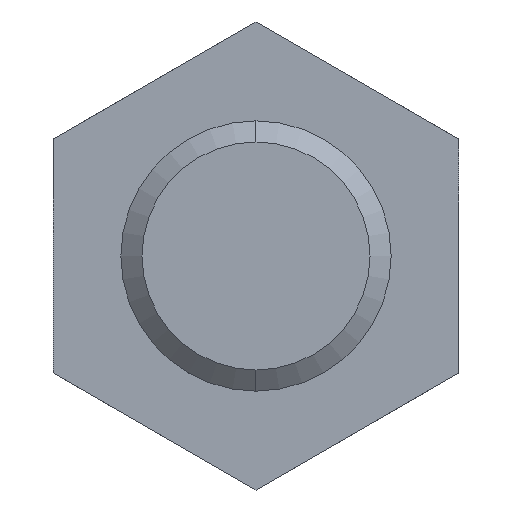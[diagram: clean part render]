
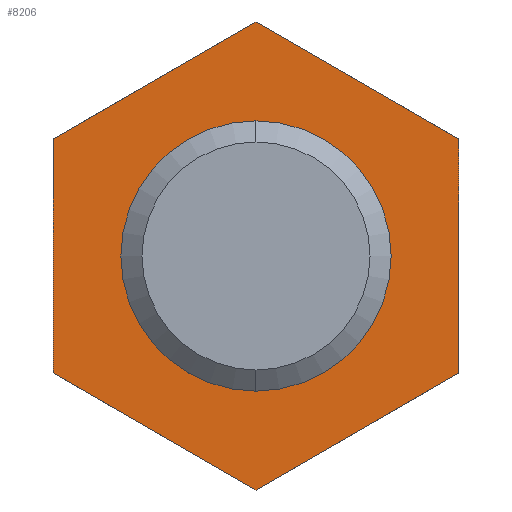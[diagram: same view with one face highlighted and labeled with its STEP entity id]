
A CAD part, front view. The second image highlights one B-rep face of the part: STEP entity #8206.
In plain terms, the highlighted planar face has unit normal (0, -1, 0).
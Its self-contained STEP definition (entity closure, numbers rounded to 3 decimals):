
#358 = CARTESIAN_POINT ( 'NONE',  ( -10., 60., 0. ) ) ;
#359 = DIRECTION ( 'NONE',  ( -1., 0., 0. ) ) ;
#360 = DIRECTION ( 'NONE',  ( 0., 1., 0. ) ) ;
#361 = CARTESIAN_POINT ( 'NONE',  ( 0., 60., 0. ) ) ;
#362 = AXIS2_PLACEMENT_3D ( 'NONE', #361, #360, #359 ) ;
#368 = CIRCLE ( 'NONE', #362, 10. ) ;
#509 = CARTESIAN_POINT ( 'NONE',  ( 10., 60., 0. ) ) ;
#980 = CARTESIAN_POINT ( 'NONE',  ( -15., 60., 8.66 ) ) ;
#988 = CARTESIAN_POINT ( 'NONE',  ( 15., 60., 8.66 ) ) ;
#989 = CARTESIAN_POINT ( 'NONE',  ( 0., 60., 17.321 ) ) ;
#1004 = DIRECTION ( 'NONE',  ( 0.866, 0., -0.5 ) ) ;
#1005 = VECTOR ( 'NONE', #1004, 1000. ) ;
#1006 = CARTESIAN_POINT ( 'NONE',  ( -15., 60., -8.66 ) ) ;
#1007 = LINE ( 'NONE', #1006, #1005 ) ;
#1036 = DIRECTION ( 'NONE',  ( 0., 0., 1. ) ) ;
#1037 = VECTOR ( 'NONE', #1036, 1000. ) ;
#1038 = CARTESIAN_POINT ( 'NONE',  ( 15., 60., -8.66 ) ) ;
#1039 = LINE ( 'NONE', #1038, #1037 ) ;
#1040 = DIRECTION ( 'NONE',  ( 0., 0., -1. ) ) ;
#1041 = VECTOR ( 'NONE', #1040, 1000. ) ;
#1042 = CARTESIAN_POINT ( 'NONE',  ( -15., 60., 8.66 ) ) ;
#1043 = LINE ( 'NONE', #1042, #1041 ) ;
#1070 = DIRECTION ( 'NONE',  ( -0.866, 0., 0.5 ) ) ;
#1071 = VECTOR ( 'NONE', #1070, 1000. ) ;
#1072 = CARTESIAN_POINT ( 'NONE',  ( 15., 60., 8.66 ) ) ;
#1073 = LINE ( 'NONE', #1072, #1071 ) ;
#1118 = DIRECTION ( 'NONE',  ( -0.866, 0., -0.5 ) ) ;
#1119 = VECTOR ( 'NONE', #1118, 1000. ) ;
#1120 = CARTESIAN_POINT ( 'NONE',  ( 0., 60., 17.321 ) ) ;
#1121 = LINE ( 'NONE', #1120, #1119 ) ;
#1145 = DIRECTION ( 'NONE',  ( 0.866, 0., 0.5 ) ) ;
#1146 = VECTOR ( 'NONE', #1145, 1000. ) ;
#1147 = CARTESIAN_POINT ( 'NONE',  ( 0., 60., -17.321 ) ) ;
#1148 = LINE ( 'NONE', #1147, #1146 ) ;
#1208 = CARTESIAN_POINT ( 'NONE',  ( 0., 60., -17.321 ) ) ;
#1209 = CARTESIAN_POINT ( 'NONE',  ( 15., 60., -8.66 ) ) ;
#1242 = CARTESIAN_POINT ( 'NONE',  ( -15., 60., -8.66 ) ) ;
#1745 = DIRECTION ( 'NONE',  ( 1., 0., 0. ) ) ;
#1746 = DIRECTION ( 'NONE',  ( 0., -1., 0. ) ) ;
#1747 = CARTESIAN_POINT ( 'NONE',  ( -10., 60., 0. ) ) ;
#1749 = AXIS2_PLACEMENT_3D ( 'NONE', #1747, #1746, #1745 ) ;
#1750 = PLANE ( 'NONE',  #1749 ) ;
#1751 = FACE_OUTER_BOUND ( 'NONE', #8281, .T. ) ;
#1755 = FACE_BOUND ( 'NONE', #8207, .T. ) ;
#1848 = DIRECTION ( 'NONE',  ( -1., 0., 0. ) ) ;
#1849 = DIRECTION ( 'NONE',  ( 0., 1., 0. ) ) ;
#1850 = CARTESIAN_POINT ( 'NONE',  ( 0., 60., 0. ) ) ;
#1851 = AXIS2_PLACEMENT_3D ( 'NONE', #1850, #1849, #1848 ) ;
#1855 = CIRCLE ( 'NONE', #1851, 10. ) ;
#7458 = EDGE_CURVE ( 'NONE', #7459, #7509, #368, .T. ) ;
#7459 = VERTEX_POINT ( 'NONE', #358 ) ;
#7509 = VERTEX_POINT ( 'NONE', #509 ) ;
#7772 = VERTEX_POINT ( 'NONE', #989 ) ;
#7774 = VERTEX_POINT ( 'NONE', #988 ) ;
#7781 = VERTEX_POINT ( 'NONE', #980 ) ;
#7788 = EDGE_CURVE ( 'NONE', #7899, #7863, #1007, .T. ) ;
#7793 = EDGE_CURVE ( 'NONE', #7781, #7899, #1043, .T. ) ;
#7795 = EDGE_CURVE ( 'NONE', #7862, #7774, #1039, .T. ) ;
#7806 = EDGE_CURVE ( 'NONE', #7774, #7772, #1073, .T. ) ;
#7812 = EDGE_CURVE ( 'NONE', #7772, #7781, #1121, .T. ) ;
#7823 = EDGE_CURVE ( 'NONE', #7863, #7862, #1148, .T. ) ;
#7862 = VERTEX_POINT ( 'NONE', #1209 ) ;
#7863 = VERTEX_POINT ( 'NONE', #1208 ) ;
#7899 = VERTEX_POINT ( 'NONE', #1242 ) ;
#8181 = ORIENTED_EDGE ( 'NONE', *, *, #7823, .T. ) ;
#8188 = ORIENTED_EDGE ( 'NONE', *, *, #7788, .T. ) ;
#8206 = ADVANCED_FACE ( 'NONE', ( #1755, #1751 ), #1750, .T. ) ;
#8207 = EDGE_LOOP ( 'NONE', ( #8208, #8214 ) ) ;
#8208 = ORIENTED_EDGE ( 'NONE', *, *, #7458, .T. ) ;
#8214 = ORIENTED_EDGE ( 'NONE', *, *, #8258, .T. ) ;
#8222 = ORIENTED_EDGE ( 'NONE', *, *, #7812, .T. ) ;
#8233 = ORIENTED_EDGE ( 'NONE', *, *, #7795, .T. ) ;
#8240 = ORIENTED_EDGE ( 'NONE', *, *, #7793, .T. ) ;
#8258 = EDGE_CURVE ( 'NONE', #7509, #7459, #1855, .T. ) ;
#8280 = ORIENTED_EDGE ( 'NONE', *, *, #7806, .T. ) ;
#8281 = EDGE_LOOP ( 'NONE', ( #8280, #8222, #8240, #8188, #8181, #8233 ) ) ;
